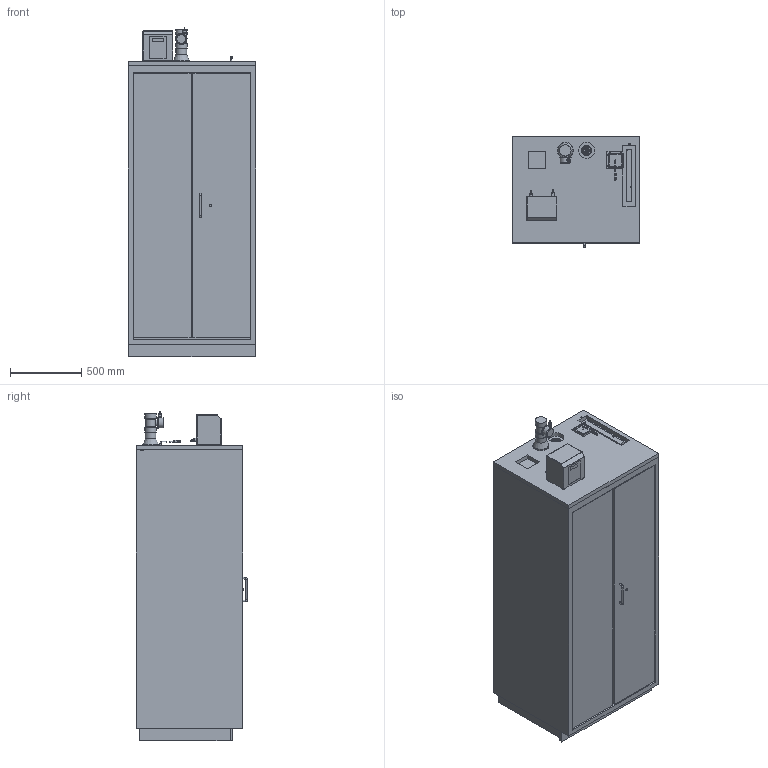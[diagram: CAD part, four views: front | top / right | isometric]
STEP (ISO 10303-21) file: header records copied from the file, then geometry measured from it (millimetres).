
FILE_DESCRIPTION(/* description */ ('Unknown'),/* implementation_level */ '2;1');
FILE_NAME(/* name */ 'COMPLEX CLASSIC LL_AU_D00115297',/* time_stamp */ '2022-01-05T13:56:55+01:00',/* author */ ('Unknown'),/* organization */ ('Unknown'),/* preprocessor_version */ 'ST-DEVELOPER v16.7',/* originating_system */ 'Solid Edge',/* authorisation */ 'Unknown');
FILE_SCHEMA (('AUTOMOTIVE_DESIGN {1 0 10303 214 3 1 1}'));
Length unit declared in the file: millimetre
Products named in the file (1): COMPLEX CLASSIC LL_D00115297
Bounding box: 894 x 782 x 2317.42 mm (x, y, z)
Volume: 1333286100.5 mm3; surface area: 9688516.8 mm2
Topology: 2 solids, 4 shells, 379 faces, 896 edges, 584 vertices
Faces by surface type: plane 262, cylinder 91, torus 9, sphere 8, cone 6, bspline 3
Full cylindrical faces by diameter (mm): 6 x3, 6.2 x3, 7.5 x2, 8 x3, 8.3 x8, 9.75 x1, 10 x1, 11.445 x1, 12 x5, 18 x5, 20 x1, 22 x3, 30 x4, 45 x1, 70 x1, 72 x1, 75 x1, 80 x3, 109.5 x1, 112 x2
Entity records: 12907 total; most frequent: CARTESIAN_POINT 1841, DIRECTION 1723, ORIENTED_EDGE 1576, EDGE_CURVE 788, LINE 595, VECTOR 595, AXIS2_PLACEMENT_3D 564, VERTEX_POINT 547
